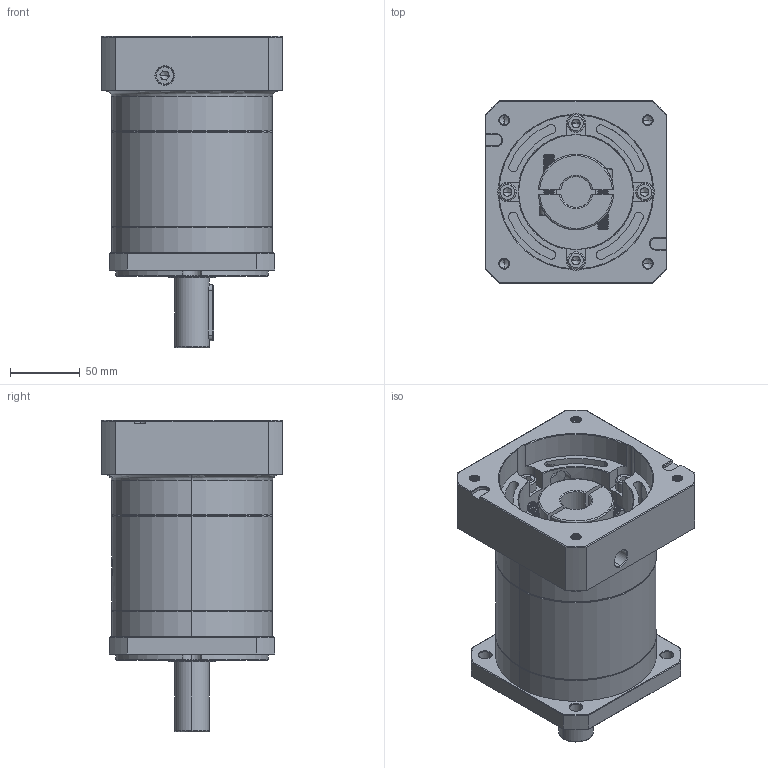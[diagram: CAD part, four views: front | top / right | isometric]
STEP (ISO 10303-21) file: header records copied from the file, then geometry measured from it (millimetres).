
FILE_DESCRIPTION (( 'STEP AP214' ), '1' );
FILE_NAME ('ZF120A-D25-L2-P2-22-110-145-M8.step', '2023-08-27T04:40:28', ( '' ), ( '' ), 'SwSTEP 2.0', 'SolidWorks 2016', '' );
FILE_SCHEMA (( 'AUTOMOTIVE_DESIGN' ));
Length unit declared in the file: millimetre
Products named in the file (1): ZF120A-D25-L2-P2-22-110-145-M8
Bounding box: 130 x 130 x 222.5 mm (x, y, z)
Volume: 1750993.9 mm3; surface area: 192827.4 mm2
Topology: 6 solids, 6 shells, 2276 faces, 6081 edges, 3904 vertices
Faces by surface type: plane 1060, cylinder 449, bspline 421, cone 328, torus 18
Entity records: 126282 total; most frequent: CARTESIAN_POINT 49918, ORIENTED_EDGE 12102, DIRECTION 8815, EDGE_CURVE 6051, VERTEX_POINT 3904, LINE 3173, VECTOR 3173, AXIS2_PLACEMENT_3D 2821
